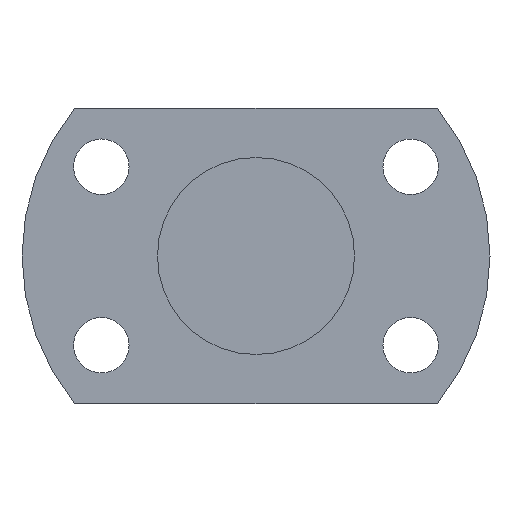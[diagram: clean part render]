
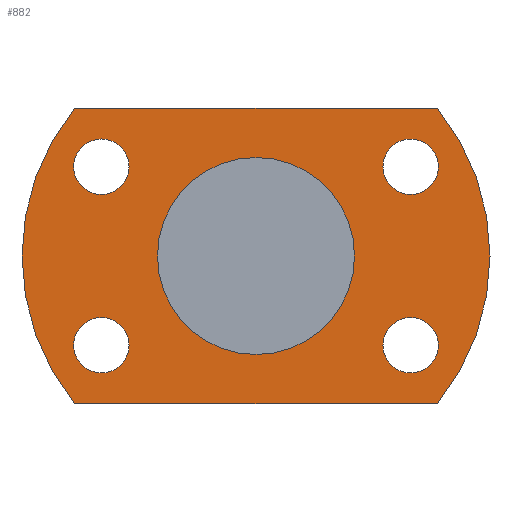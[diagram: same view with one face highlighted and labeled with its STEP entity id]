
A CAD part, left-side view. The second image highlights one B-rep face of the part: STEP entity #882.
In plain terms, the highlighted planar face has unit normal (-1, 0, 0).
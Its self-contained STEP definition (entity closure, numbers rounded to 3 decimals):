
#230=CARTESIAN_POINT('',(120.0,25.115,-10.0));
#231=VERTEX_POINT('',#230);
#232=CARTESIAN_POINT('',(120.0,25.115,-14.5));
#233=DIRECTION('',(1.0,0.0,0.0));
#234=DIRECTION('',(0.0,0.0,1.0));
#235=AXIS2_PLACEMENT_3D('',#232,#233,#234);
#236=CIRCLE('',#235,4.5);
#237=EDGE_CURVE('',#231,#231,#236,.T.);
#279=CARTESIAN_POINT('',(120.0,-25.115,19.));
#280=VERTEX_POINT('',#279);
#281=CARTESIAN_POINT('',(120.0,-25.115,14.5));
#282=DIRECTION('',(1.0,0.0,0.0));
#283=DIRECTION('',(0.0,0.0,1.0));
#284=AXIS2_PLACEMENT_3D('',#281,#282,#283);
#285=CIRCLE('',#284,4.5);
#286=EDGE_CURVE('',#280,#280,#285,.T.);
#328=CARTESIAN_POINT('',(120.0,-25.115,-10.));
#329=VERTEX_POINT('',#328);
#330=CARTESIAN_POINT('',(120.0,-25.115,-14.5));
#331=DIRECTION('',(1.0,0.0,0.0));
#332=DIRECTION('',(0.0,0.0,1.0));
#333=AXIS2_PLACEMENT_3D('',#330,#331,#332);
#334=CIRCLE('',#333,4.5);
#335=EDGE_CURVE('',#329,#329,#334,.T.);
#377=CARTESIAN_POINT('',(120.0,25.115,19.0));
#378=VERTEX_POINT('',#377);
#379=CARTESIAN_POINT('',(120.0,25.115,14.5));
#380=DIRECTION('',(1.0,0.0,0.0));
#381=DIRECTION('',(0.0,0.0,1.0));
#382=AXIS2_PLACEMENT_3D('',#379,#380,#381);
#383=CIRCLE('',#382,4.5);
#384=EDGE_CURVE('',#378,#378,#383,.T.);
#688=CARTESIAN_POINT('',(120.0,-29.462,-24.));
#689=VERTEX_POINT('',#688);
#696=CARTESIAN_POINT('',(120.0,29.462,-24.));
#697=VERTEX_POINT('',#696);
#698=CARTESIAN_POINT('',(120.0,29.462,-24.));
#699=DIRECTION('',(0.0,-1.0,0.0));
#700=VECTOR('',#699,58.924);
#701=LINE('',#698,#700);
#702=EDGE_CURVE('',#697,#689,#701,.T.);
#719=CARTESIAN_POINT('',(120.0,-29.462,24.));
#720=VERTEX_POINT('',#719);
#727=CARTESIAN_POINT('',(120.0,0.0,0.));
#728=DIRECTION('',(-1.0,0.0,0.0));
#729=DIRECTION('',(0.0,0.0,1.0));
#730=AXIS2_PLACEMENT_3D('',#727,#728,#729);
#731=CIRCLE('',#730,38.);
#732=EDGE_CURVE('',#689,#720,#731,.T.);
#744=CARTESIAN_POINT('',(120.0,29.462,24.));
#745=VERTEX_POINT('',#744);
#752=CARTESIAN_POINT('',(120.0,-29.462,24.));
#753=DIRECTION('',(0.0,1.0,0.0));
#754=VECTOR('',#753,58.924);
#755=LINE('',#752,#754);
#756=EDGE_CURVE('',#720,#745,#755,.T.);
#769=CARTESIAN_POINT('',(120.0,0.0,0.));
#770=DIRECTION('',(-1.0,0.0,0.0));
#771=DIRECTION('',(0.0,0.0,1.0));
#772=AXIS2_PLACEMENT_3D('',#769,#770,#771);
#773=CIRCLE('',#772,38.);
#774=EDGE_CURVE('',#745,#697,#773,.T.);
#848=CARTESIAN_POINT('',(120.0,0.0,19.));
#849=DIRECTION('',(-1.0,0.0,0.0));
#850=DIRECTION('',(0.0,0.0,1.0));
#851=AXIS2_PLACEMENT_3D('',#848,#849,#850);
#852=PLANE('',#851);
#853=ORIENTED_EDGE('',*,*,#774,.T.);
#854=ORIENTED_EDGE('',*,*,#702,.T.);
#855=ORIENTED_EDGE('',*,*,#732,.T.);
#856=ORIENTED_EDGE('',*,*,#756,.T.);
#857=EDGE_LOOP('',(#853,#854,#855,#856));
#858=FACE_OUTER_BOUND('',#857,.T.);
#859=ORIENTED_EDGE('',*,*,#237,.T.);
#860=EDGE_LOOP('',(#859));
#861=FACE_BOUND('',#860,.T.);
#862=ORIENTED_EDGE('',*,*,#286,.T.);
#863=EDGE_LOOP('',(#862));
#864=FACE_BOUND('',#863,.T.);
#865=ORIENTED_EDGE('',*,*,#335,.T.);
#866=EDGE_LOOP('',(#865));
#867=FACE_BOUND('',#866,.T.);
#868=ORIENTED_EDGE('',*,*,#384,.T.);
#869=EDGE_LOOP('',(#868));
#870=FACE_BOUND('',#869,.T.);
#871=CARTESIAN_POINT('',(120.0,0.0,16.));
#872=VERTEX_POINT('',#871);
#873=CARTESIAN_POINT('',(120.0,0.0,0.));
#874=DIRECTION('',(-1.0,0.0,0.0));
#875=DIRECTION('',(0.0,0.0,1.0));
#876=AXIS2_PLACEMENT_3D('',#873,#874,#875);
#877=CIRCLE('',#876,16.);
#878=EDGE_CURVE('',#872,#872,#877,.T.);
#879=ORIENTED_EDGE('',*,*,#878,.F.);
#880=EDGE_LOOP('',(#879));
#881=FACE_BOUND('',#880,.T.);
#882=ADVANCED_FACE('',(#858,#861,#864,#867,#870,#881),#852,.T.);
